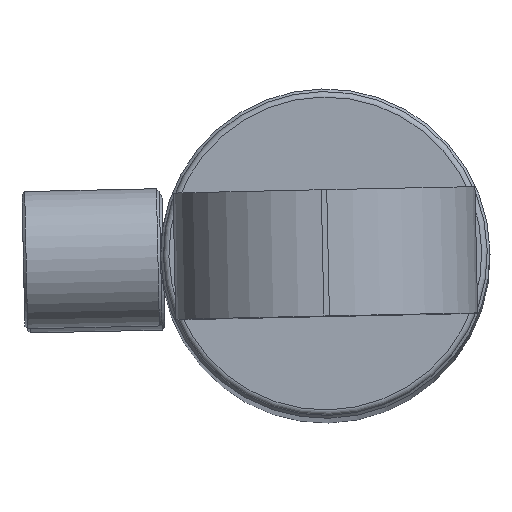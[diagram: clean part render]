
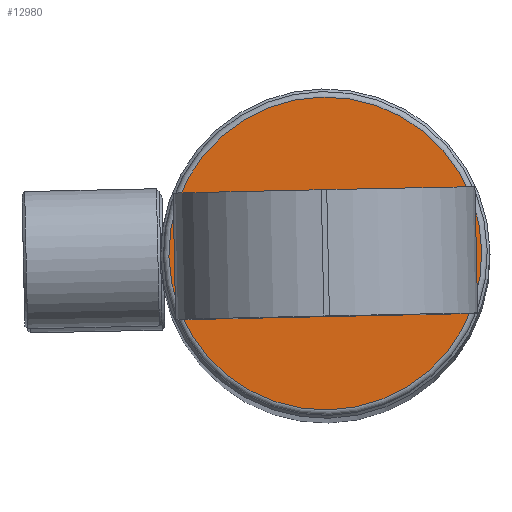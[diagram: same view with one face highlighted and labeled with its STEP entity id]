
A CAD part, top view. The second image highlights one B-rep face of the part: STEP entity #12980.
In plain terms, the highlighted planar face has unit normal (0, 0, 1) as drawn and (1, 0, 0) by its records, which use the part's own axes.
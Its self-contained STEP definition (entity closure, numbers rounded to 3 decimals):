
#1493=PLANE('',#13870);
#3742=FACE_OUTER_BOUND('',#4511,.T.);
#4511=EDGE_LOOP('',(#8934));
#5358=CIRCLE('',#13856,28.5);
#5541=VERTEX_POINT('',#16916);
#6885=EDGE_CURVE('',#5541,#5541,#5358,.T.);
#8934=ORIENTED_EDGE('',*,*,#6885,.F.);
#12980=ADVANCED_FACE('',(#3742),#1493,.F.);
#13856=AXIS2_PLACEMENT_3D('',#16918,#14569,#14570);
#13870=AXIS2_PLACEMENT_3D('',#16941,#14600,#14601);
#14569=DIRECTION('center_axis',(-1.,0.,0.));
#14570=DIRECTION('ref_axis',(0.,-1.,0.));
#14600=DIRECTION('center_axis',(-1.,0.,0.));
#14601=DIRECTION('ref_axis',(0.,-1.,0.));
#16916=CARTESIAN_POINT('',(15.5,28.5,0.));
#16918=CARTESIAN_POINT('Origin',(15.5,0.,0.));
#16941=CARTESIAN_POINT('Origin',(15.5,28.5,0.));
